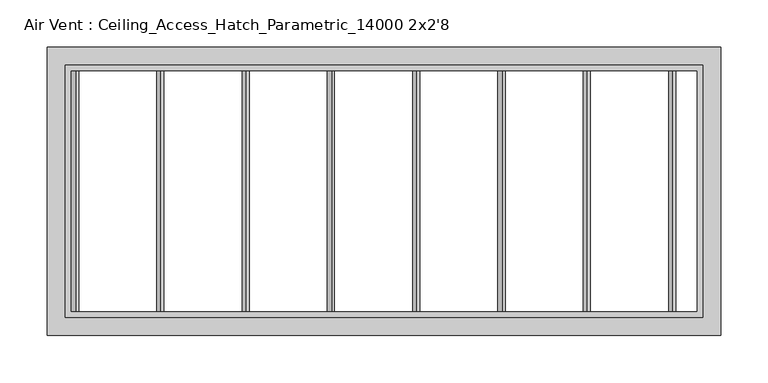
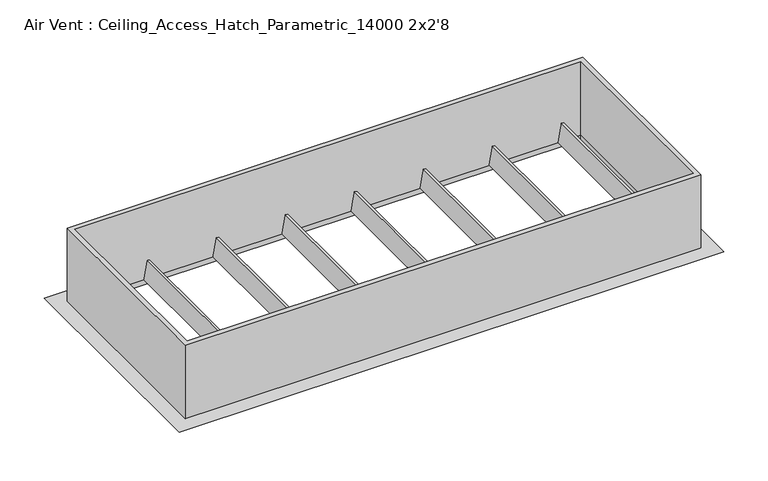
"""IFC4 building model written with IfcOpenShell, lengths in millimetres: proxy geometry, Air Vent : Ceiling_Access_Hatch_Parametric_14000 2x2'8."""

from ifc_helpers import new_model, si_unit, frame, origin, place, context, project, spatial, polyline, outline, extrude, faceted_brep, source, transform, mapped, element, save


def air_vent_ceiling_access_hatch_parametric_14000_2x2_8_3648d0f2(model_context):
    return source(origin(), model_context, "Body", "SolidModel", [
        extrude(outline(polyline([(0.0, -3.1750001), (0.0, 0.0), (254.0, 0.0), (254.0, -3.1750001), (0.0, -3.1750001)])), frame((-240.0846578, -127.0, 2438.951333), z_axis=(0.1736481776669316, 0.0, 0.9848077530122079), x_axis=(0.0, 1.0, 0.0)), (0.0, 0.0, 1.0), 25.4),
        extrude(outline(polyline([(0.0, -3.175), (0.0, 0.0), (254.0, 0.0), (254.0, -3.175), (0.0, -3.175)])), frame((-149.9693155, -127.0, 2438.951333), z_axis=(0.1736481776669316, 0.0, 0.9848077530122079), x_axis=(0.0, 1.0, 0.0)), (0.0, 0.0, 1.0), 25.4),
        extrude(outline(polyline([(0.0, -3.175), (0.0, 0.0), (254.0, 0.0), (254.0, -3.175), (0.0, -3.175)])), frame((-59.8539733, -127.0, 2438.951333), z_axis=(0.1736481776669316, 0.0, 0.9848077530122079), x_axis=(0.0, 1.0, 0.0)), (0.0, 0.0, 1.0), 25.4),
        extrude(outline(polyline([(0.0, -3.175), (0.0, 0.0), (254.0, 0.0), (254.0, -3.175), (0.0, -3.175)])), frame((30.261369, -127.0, 2438.951333), z_axis=(0.1736481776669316, 0.0, 0.9848077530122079), x_axis=(0.0, 1.0, 0.0)), (0.0, 0.0, 1.0), 25.4),
        extrude(outline(polyline([(0.0, -3.175), (0.0, 0.0), (254.0, 0.0), (254.0, -3.175), (0.0, -3.175)])), frame((120.3767112, -127.0, 2438.951333), z_axis=(0.1736481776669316, 0.0, 0.9848077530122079), x_axis=(0.0, 1.0, 0.0)), (0.0, 0.0, 1.0), 25.4),
        extrude(outline(polyline([(0.0, -3.175), (0.0, 0.0), (254.0, 0.0), (254.0, -3.175), (0.0, -3.175)])), frame((210.4920535, -127.0, 2438.951333), z_axis=(0.1736481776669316, 0.0, 0.9848077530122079), x_axis=(0.0, 1.0, 0.0)), (0.0, 0.0, 1.0), 25.4),
        extrude(outline(polyline([(0.0, -3.175), (0.0, 0.0), (254.0, 0.0), (254.0, -3.175), (0.0, -3.175)])), frame((300.6073957, -127.0, 2438.951333), z_axis=(0.1736481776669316, 0.0, 0.9848077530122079), x_axis=(0.0, 1.0, 0.0)), (0.0, 0.0, 1.0), 25.4),
        extrude(outline(polyline([(0.0, -3.175), (0.0, 0.0), (254.0, 0.0), (254.0, -3.175), (0.0, -3.175)])), frame((-330.2, -127.0, 2438.951333), z_axis=(0.1736481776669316, 0.0, 0.9848077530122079), x_axis=(0.0, 1.0, 0.0)), (0.0, 0.0, 1.0), 25.4),
        faceted_brep([(330.2, 127.0, 2438.4), (330.2, 127.0, 2432.05), (330.2, -127.0, 2432.05), (330.2, -127.0, 2438.4), (-330.2, -127.0, 2432.05), (-330.2, -127.0, 2438.4), (-330.2, 127.0, 2432.05), (-330.2, 127.0, 2438.4), (342.9, -139.7, 2432.05), (-342.9, -139.7, 2432.05), (-342.9, 139.7, 2432.05), (342.9, 139.7, 2432.05), (355.6, 152.4, 2438.4), (-355.6, 152.4, 2438.4), (-355.6, -152.4, 2438.4), (355.6, -152.4, 2438.4)], [[[0, 1, 2, 3]], [[3, 2, 4, 5]], [[5, 4, 6, 7]], [[8, 9, 10, 11], [1, 6, 4, 2]], [[12, 13, 14, 15], [3, 5, 7, 0]], [[7, 6, 1, 0]], [[11, 12, 15, 8]], [[8, 15, 14, 9]], [[9, 14, 13, 10]], [[10, 13, 12, 11]]]),
        extrude(outline(polyline([(336.55, 133.35), (336.55, -133.35), (-336.55, -133.35), (-336.55, 133.35), (336.55, 133.35)]), holes=[polyline([(330.2, 127.0), (-330.2, 127.0), (-330.2, -127.0), (330.2, -127.0), (330.2, 127.0)])]), frame((0.0, 0.0, 2438.4), z_axis=(0.0, 0.0, 1.0), x_axis=(1.0, 0.0, 0.0)), (0.0, 0.0, 1.0), 101.6),
    ])


if __name__ == "__main__":
    model = new_model("IFC4")
    model_context = context("Model", 3, world=origin())
    ifc_project = project(units=[si_unit("LENGTHUNIT", "METRE", prefix="MILLI")], contexts=[model_context])
    site = spatial("IfcSite", under=ifc_project)
    building = spatial("IfcBuilding", under=site)
    placement = place(None, origin())
    air_vent_ceiling_access_hatch_parametric_14000_2x2_8_shape = air_vent_ceiling_access_hatch_parametric_14000_2x2_8_3648d0f2(model_context)
    element("IfcBuildingElementProxy", 1, Name="Air Vent : Ceiling_Access_Hatch_Parametric_14000 2x2'8", ObjectType="Air Vent : Ceiling_Access_Hatch_Parametric_14000 2x2'8", at=placement, inside=building, context=model_context, shape_type="MappedRepresentation", body=[
        mapped(air_vent_ceiling_access_hatch_parametric_14000_2x2_8_shape, transform((0.0, 0.0, 0.0), x_axis=(1.0, 0.0, 0.0), y_axis=(0.0, 1.0, 0.0), z_axis=(0.0, 0.0, 1.0))),
    ])
    save(model, "model.ifc")
